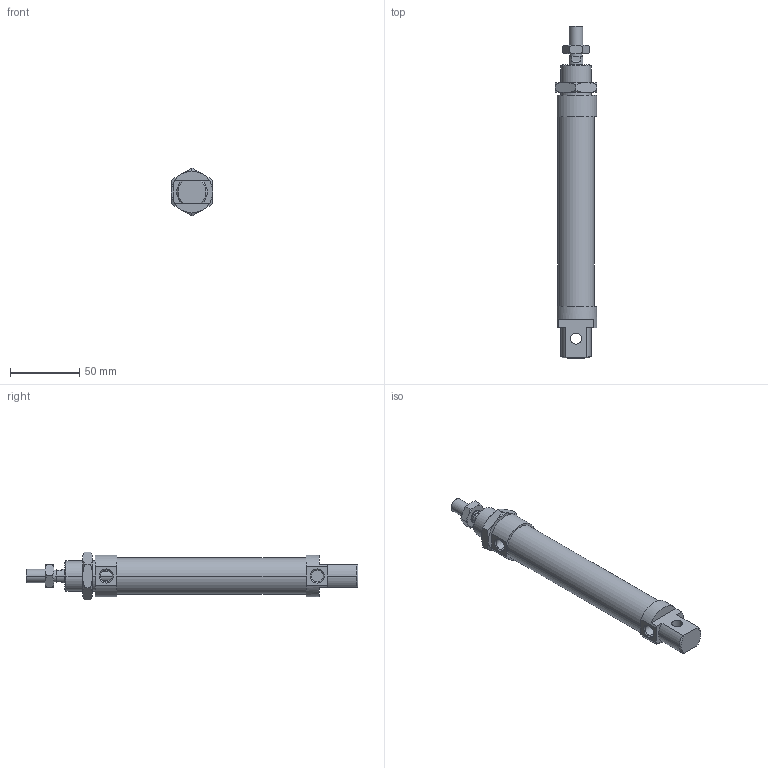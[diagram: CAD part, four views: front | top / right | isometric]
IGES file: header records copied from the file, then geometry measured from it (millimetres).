
Global section: file name: No Iges File Name specified; native system: AutoDesk Inventor R6.0; preprocessor: AutoDesk Inventor Iges Exporter R6.0; author: No Author specified; organization: No Organization specified; date: 20030407.191548; units: millimetre
Bounding box: 30 x 240 x 34.64 mm (x, y, z)
Volume: 115241.8 mm3; surface area: 32034.4 mm2
Topology: 4 solids, 4 shells, 124 faces, 281 edges, 170 vertices
Faces by surface type: plane 41, cone 38, bspline 21, cylinder 18, revolution 6
